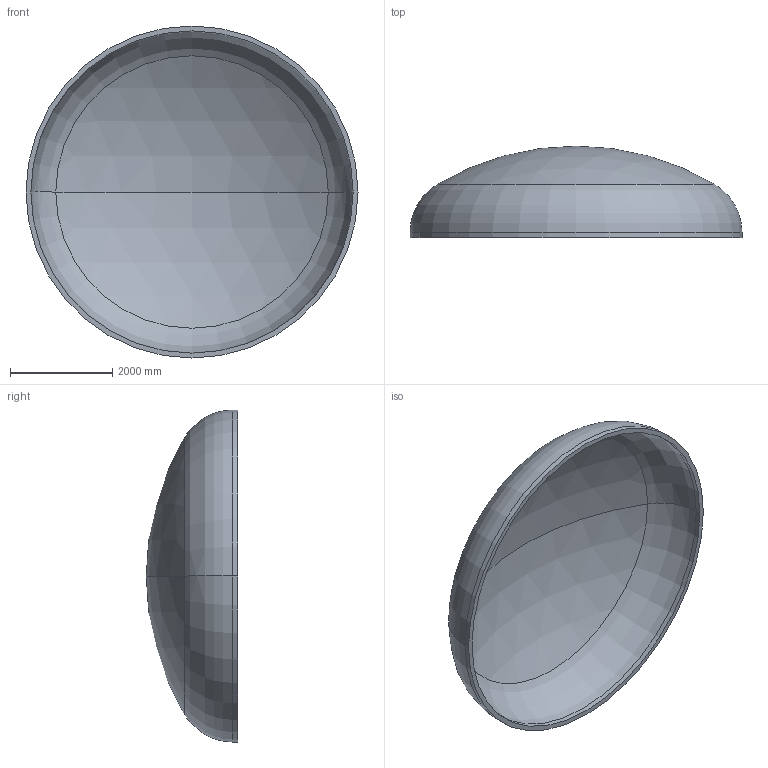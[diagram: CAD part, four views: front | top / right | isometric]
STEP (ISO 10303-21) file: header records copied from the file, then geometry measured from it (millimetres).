
FILE_DESCRIPTION (( 'STEP AP203' ), '1' );
FILE_NAME ('DIN 28013 Korbbogenform_-_Boden DIN 28013 - 6500 x 100 - I - s=96.step', '2016-07-04T10:43:51', ( '' ), ( '' ), 'SwSTEP 2.0', 'SolidWorks 2013', '' );
FILE_SCHEMA (( 'CONFIG_CONTROL_DESIGN' ));
Length unit declared in the file: millimetre
Products named in the file (1): DIN 28013 Korbbogenform_-_Boden DIN 28013 - 6500 x 100 - I - s=96
Bounding box: 6500 x 1790.41 x 6500 mm (x, y, z)
Volume: 4519034924.5 mm3; surface area: 96097228.2 mm2
Topology: 1 solids, 1 shells, 13 faces, 24 edges, 14 vertices
Faces by surface type: torus 4, cylinder 4, sphere 4, plane 1
Entity records: 407 total; most frequent: DIRECTION 72, CARTESIAN_POINT 52, ORIENTED_EDGE 48, AXIS2_PLACEMENT_3D 34, EDGE_CURVE 24, CIRCLE 20, EDGE_LOOP 14, VERTEX_POINT 14
